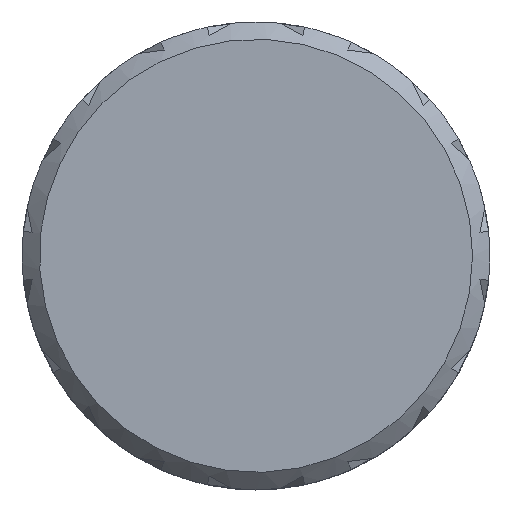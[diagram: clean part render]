
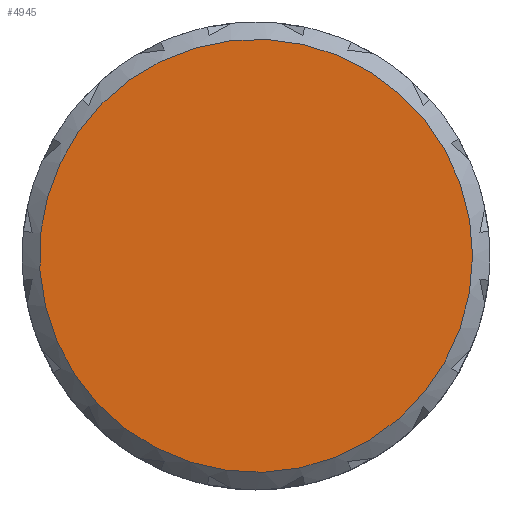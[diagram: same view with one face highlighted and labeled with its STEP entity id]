
A CAD part, top view. The second image highlights one B-rep face of the part: STEP entity #4945.
In plain terms, the highlighted planar face has unit normal (0, 0, 1).
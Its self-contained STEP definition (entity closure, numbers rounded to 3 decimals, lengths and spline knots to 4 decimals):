
#29=PLANE('',#5074);
#757=CIRCLE('',#5062,6.25);
#2293=ORIENTED_EDGE('',*,*,#3061,.T.);
#3061=EDGE_CURVE('',#3482,#3482,#757,.T.);
#3482=VERTEX_POINT('',#101288);
#4188=EDGE_LOOP('',(#2293));
#4541=FACE_BOUND('',#4188,.T.);
#4945=ADVANCED_FACE('',(#4541),#29,.F.);
#5062=AXIS2_PLACEMENT_3D('',#101287,#5315,#5316);
#5074=AXIS2_PLACEMENT_3D('',#101300,#5339,#5340);
#5315=DIRECTION('',(0.,0.,1.));
#5316=DIRECTION('',(1.,0.,0.));
#5339=DIRECTION('',(0.,0.,-1.));
#5340=DIRECTION('',(-1.,0.,0.));
#101287=CARTESIAN_POINT('',(0.,0.,5.));
#101288=CARTESIAN_POINT('',(6.25,0.,5.));
#101300=CARTESIAN_POINT('',(0.,0.,5.));
